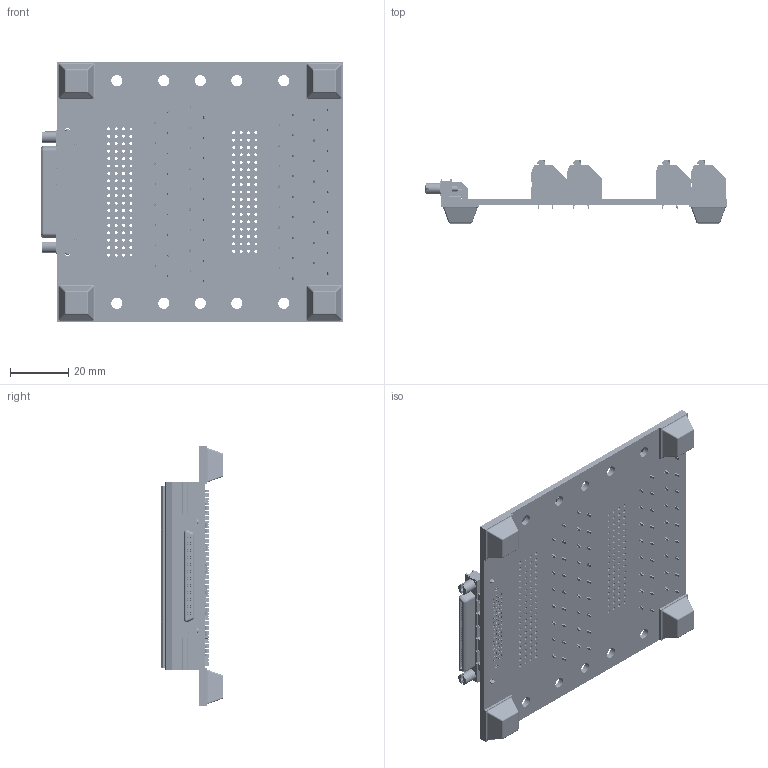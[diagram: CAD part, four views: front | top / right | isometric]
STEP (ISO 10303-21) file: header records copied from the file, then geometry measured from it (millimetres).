
FILE_DESCRIPTION (( 'STEP AP214' ), '1' );
FILE_NAME ('brkgvh68fv1-r-ft_rev_b.step', '2024-05-17T14:43:35', ( '' ), ( '' ), 'SwSTEP 2.0', 'SolidWorks 2018', '' );
FILE_SCHEMA (( 'AUTOMOTIVE_DESIGN' ));
Length unit declared in the file: inch
Products named in the file (7): brkgvh68fv1-r-ft_rev_b; brkgvh68fv1_rev_b_pcb; Square Rubber Feet; Spring Terminal 18 Position; VCHDI Connector Right Angle; Spring Terminal 17 Position; Jack Screw
Assembly tree (12 placements, depth 2):
  brkgvh68fv1-r-ft_rev_b
    brkgvh68fv1_rev_b_pcb
    VCHDI Connector Right Angle
    Jack Screw  x2
    Spring Terminal 17 Position  x3
    Spring Terminal 18 Position
    Square Rubber Feet  x4
Bounding box: 103.5 x 21.46 x 88.9 mm (x, y, z)
Volume: 49388.2 mm3; surface area: 43459.6 mm2
Topology: 12 solids, 12 shells, 12170 faces, 33574 edges, 21986 vertices
Faces by surface type: plane 7573, cylinder 2665, bspline 1567, cone 340, sphere 16, torus 9
Entity records: 458861 total; most frequent: CARTESIAN_POINT 142404, ORIENTED_EDGE 51652, DIRECTION 41376, EDGE_CURVE 25826, VECTOR 18202, LINE 18202, VERTEX_POINT 16969, AXIS2_PLACEMENT_3D 11587
